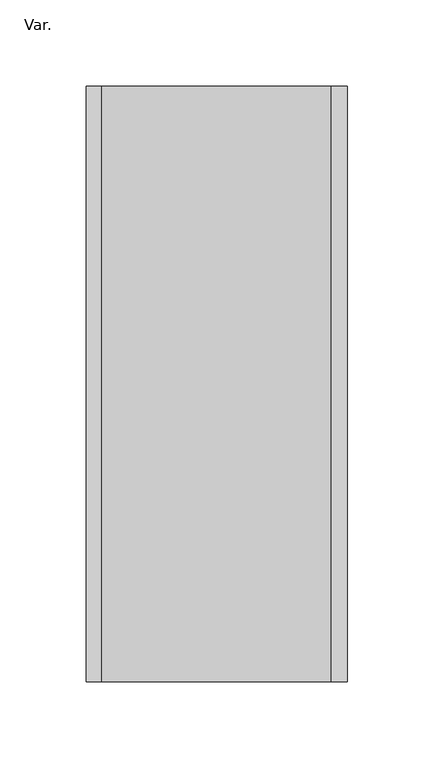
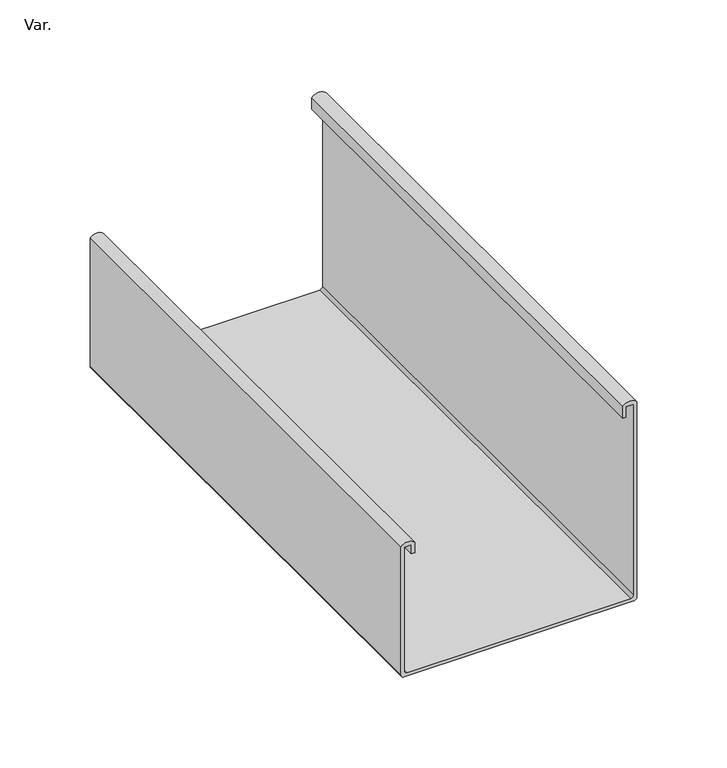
"""IFC4 building model written with IfcOpenShell, lengths in millimetres: pipe fitting geometry, AmancoWavin_Unionesdetubería_CanalesyBajantesZ_NoUsarCanoaAltoCaudal : Var.."""

import ifcopenshell
import ifcopenshell.guid

model = None  # the IFC model being written
_history = None  # IfcOwnerHistory: only IFC2X3 demands one
_inside = {}  # id of a spatial element -> (the spatial element, [elements in it])
_under = {}  # id of a project, library or spatial element -> (it, [spatial elements below it])
_declared = {}  # id of a project -> (the project, [libraries it declares])
_typed = {}  # id of a type object -> (the type object, [elements of that type])
_made_of = {}  # id of a material, layer set ... -> (it, [elements and type objects made of it])


def new_model(schema):
    """Start an empty IFC model of exactly this schema.

    Asked for "IFC4X3", IfcOpenShell would pick the latest addendum, in which some entities
    have other attributes; the version numbers below select the first issue.
    IFC2X3 requires an IfcOwnerHistory on every rooted entity: one is made here for all.
    """
    global model, _history
    if schema == "IFC4X3":
        model = ifcopenshell.file(schema_version=(4, 3, 0, 0))
    else:
        model = ifcopenshell.file(schema=schema)
    _inside.clear()
    _under.clear()
    _declared.clear()
    _typed.clear()
    _made_of.clear()
    _history = None
    if model.schema == "IFC2X3":
        org = make("IfcOrganization", Name="unknown")
        user = make(
            "IfcPersonAndOrganization",
            ThePerson=make("IfcPerson", FamilyName="unknown"),
            TheOrganization=org,
        )
        app = make(
            "IfcApplication",
            ApplicationDeveloper=org,
            Version="unknown",
            ApplicationFullName="unknown",
            ApplicationIdentifier="unknown",
        )
        _history = make(
            "IfcOwnerHistory",
            OwningUser=user,
            OwningApplication=app,
            ChangeAction="ADDED",
            CreationDate=0,
        )
    return model


def make(cls, **values):
    """One entity of the class cls with the attributes given. An attribute that is None is left unset."""
    return model.create_entity(
        cls, **{name: value for name, value in values.items() if value is not None}
    )


def rooted(cls, **values):
    """An entity with a GlobalId (a new one), such as an element, a storey or a relation."""
    return make(cls, GlobalId=ifcopenshell.guid.new(), OwnerHistory=_history, **values)


def si_unit(unit_type, name, prefix=None):
    """IfcSIUnit, for example si_unit("LENGTHUNIT", "METRE", prefix="MILLI")."""
    return make("IfcSIUnit", UnitType=unit_type, Prefix=prefix, Name=name)


def assignment(units):
    """IfcUnitAssignment: the units of a project."""
    return None if units is None else make("IfcUnitAssignment", Units=units)


def point(xyz):
    """IfcCartesianPoint."""
    return None if xyz is None else make("IfcCartesianPoint", Coordinates=xyz)


def direction(xyz):
    """IfcDirection."""
    return None if xyz is None else make("IfcDirection", DirectionRatios=xyz)


def frame(location, z_axis=None, x_axis=None):
    """IfcAxis2Placement3D, a coordinate frame: its origin and axes. An axis left out is left unset."""
    return make(
        "IfcAxis2Placement3D",
        Location=point(location),
        Axis=direction(z_axis),
        RefDirection=direction(x_axis),
    )


def frame_2d(location, x_axis=None):
    """IfcAxis2Placement2D, a coordinate frame in the plane: its origin and x axis."""
    return make(
        "IfcAxis2Placement2D", Location=point(location), RefDirection=direction(x_axis)
    )


def origin():
    """The frame at (0, 0, 0) with its axes left unset."""
    return frame((0.0, 0.0, 0.0))


def place(relative_to, where):
    """IfcLocalPlacement: puts the frame where relative to a parent placement (None: the world)."""
    return make(
        "IfcLocalPlacement", PlacementRelTo=relative_to, RelativePlacement=where
    )


def context(
    kind, dimensions, precision=None, world=None, true_north=None, identifier=None
):
    """IfcGeometricRepresentationContext, for example the 3D "Model" context."""
    return make(
        "IfcGeometricRepresentationContext",
        ContextIdentifier=identifier,
        ContextType=kind,
        CoordinateSpaceDimension=dimensions,
        Precision=precision,
        WorldCoordinateSystem=world,
        TrueNorth=true_north,
    )


def project(units=None, contexts=None):
    """IfcProject with its units and contexts."""
    return rooted(
        "IfcProject",
        Name="project",
        RepresentationContexts=contexts,
        UnitsInContext=assignment(units),
    )


def spatial(cls, under=None, at=None, **own):
    """A site, building, storey or space (cls), placed at a placement, below another one or the project."""
    s = rooted(cls, ObjectPlacement=at, **own)
    if under is not None:
        _under.setdefault(under.id(), (under, []))[1].append(s)
    return s


def polyline(points):
    """IfcPolyline through the points."""
    return make("IfcPolyline", Points=[point(p) for p in points])


def circle_curve(where, radius):
    """IfcCircle in the frame where."""
    return make("IfcCircle", Position=where, Radius=radius)


def trimmed(basis, trim1, trim2, sense, master):
    """IfcTrimmedCurve: the piece of a basis curve between two trims."""
    return make(
        "IfcTrimmedCurve",
        BasisCurve=basis,
        Trim1=trim1,
        Trim2=trim2,
        SenseAgreement=sense,
        MasterRepresentation=master,
    )


def segment(curve, same_sense, transition):
    """IfcCompositeCurveSegment."""
    return make(
        "IfcCompositeCurveSegment",
        Transition=transition,
        SameSense=same_sense,
        ParentCurve=curve,
    )


def composite_curve(segments, self_intersect=None):
    """IfcCompositeCurve: segments joined end to end."""
    return make("IfcCompositeCurve", Segments=segments, SelfIntersect=self_intersect)


def outline(outer, holes=None, kind="AREA"):
    """IfcArbitraryClosedProfileDef: a profile drawn as a closed curve; with holes, ...WithVoids."""
    if holes is None:
        return make("IfcArbitraryClosedProfileDef", ProfileType=kind, OuterCurve=outer)
    return make(
        "IfcArbitraryProfileDefWithVoids",
        ProfileType=kind,
        OuterCurve=outer,
        InnerCurves=holes,
    )


def extrude(swept, where, along, depth):
    """IfcExtrudedAreaSolid: the profile swept, set in the frame where, extruded along a direction by depth."""
    return make(
        "IfcExtrudedAreaSolid",
        SweptArea=swept,
        Position=where,
        ExtrudedDirection=direction(along),
        Depth=depth,
    )


def shape(context_of_items, identifier, shape_type, items):
    """IfcShapeRepresentation: the items that make up one representation, for example the "Body"."""
    return make(
        "IfcShapeRepresentation",
        ContextOfItems=context_of_items,
        RepresentationIdentifier=identifier,
        RepresentationType=shape_type,
        Items=items,
    )


def source(mapping_origin, context_of_items, identifier, shape_type, items):
    """IfcRepresentationMap: a shape defined once, which mapped items show again and again."""
    return make(
        "IfcRepresentationMap",
        MappingOrigin=mapping_origin,
        MappedRepresentation=shape(context_of_items, identifier, shape_type, items),
    )


def transform(
    local_origin,
    x_axis=None,
    y_axis=None,
    z_axis=None,
    scale=None,
    scale2=None,
    scale3=None,
    uniform=True,
):
    """IfcCartesianTransformationOperator3D, or its non-uniform kind. x_axis, y_axis, z_axis: its Axis1, 2, 3."""
    if uniform:
        return make(
            "IfcCartesianTransformationOperator3D",
            Axis1=direction(x_axis),
            Axis2=direction(y_axis),
            LocalOrigin=point(local_origin),
            Scale=scale,
            Axis3=direction(z_axis),
        )
    return make(
        "IfcCartesianTransformationOperator3DnonUniform",
        Axis1=direction(x_axis),
        Axis2=direction(y_axis),
        LocalOrigin=point(local_origin),
        Scale=scale,
        Axis3=direction(z_axis),
        Scale2=scale2,
        Scale3=scale3,
    )


def mapped(mapping_source, mapping_target):
    """IfcMappedItem: shows the shape of a source again, moved by a transform."""
    return make(
        "IfcMappedItem", MappingSource=mapping_source, MappingTarget=mapping_target
    )


def made_of(thing, what):
    """Note that an element or type object is made of a material, layer set ...; save() writes the relation."""
    if what is not None:
        _made_of.setdefault(what.id(), (what, []))[1].append(thing)
    return thing


def element(
    cls,
    number,
    at=None,
    inside=None,
    cuts=None,
    type_object=None,
    material=None,
    context=None,
    identifier="Body",
    shape_type=None,
    held_by="IfcProductDefinitionShape",
    body=None,
    shapes=None,
    **own,
):
    """One element of the class cls, such as IfcWall. Its Tag is "e" and its number.

    at: its placement. inside: the storey or other place that contains it. cuts: it is an
    opening in that element (IfcRelVoidsElement). A single representation is given by context,
    identifier, shape_type and body (its items); several are given by shapes. held_by: the class
    of the entity that holds the representations. save() writes the other relations.
    """
    e = rooted(cls, Tag="e%d" % number, ObjectPlacement=at, **own)
    if body is not None:
        shapes = [shape(context, identifier, shape_type, body)]
    if shapes is not None:
        e.Representation = make(held_by, Representations=shapes)
    if inside is not None:
        _inside.setdefault(inside.id(), (inside, []))[1].append(e)
    if cuts is not None:
        rooted(
            "IfcRelVoidsElement", RelatingBuildingElement=cuts, RelatedOpeningElement=e
        )
    if type_object is not None:
        _typed.setdefault(type_object.id(), (type_object, []))[1].append(e)
    return made_of(e, material)


def aggregate(whole, parts):
    """IfcRelAggregates: a whole, such as a stair, and the parts it consists of."""
    return rooted("IfcRelAggregates", RelatingObject=whole, RelatedObjects=parts)


def save(model, path):
    """Write the relations noted so far, then the file.

    IfcRelAggregates (storeys below a building ...), IfcRelContainedInSpatialStructure (elements
    in a storey), IfcRelDefinesByType, IfcRelAssociatesMaterial and IfcRelDeclares: one each for
    every whole, place, type object, material and project.
    """
    for whole, parts in _under.values():
        aggregate(whole, parts)
    for where, things in _inside.values():
        rooted(
            "IfcRelContainedInSpatialStructure",
            RelatedElements=things,
            RelatingStructure=where,
        )
    for kind, things in _typed.values():
        rooted("IfcRelDefinesByType", RelatedObjects=things, RelatingType=kind)
    for what, things in _made_of.values():
        rooted("IfcRelAssociatesMaterial", RelatedObjects=things, RelatingMaterial=what)
    for by, libraries in _declared.values():
        rooted("IfcRelDeclares", RelatingContext=by, RelatedDefinitions=libraries)
    model.write(path)


def var_36aa1468(model_context):
    return source(origin(), model_context, "Body", "SweptSolid", [
        extrude(outline(composite_curve([segment(polyline([(4.04, -73.58), (87.7357853, -73.58), (87.7357853, -68.9), (81.7, -68.9), (81.7, -66.88), (88.7531357, -66.88)]), True, "CONTINUOUS"), segment(trimmed(circle_curve(frame_2d((84.9336297, -71.2)), 5.7663703), [point((88.7531357, -66.88))], [point((88.6606964, -75.6))], False, "CARTESIAN"), True, "CONTINUOUS"), segment(polyline([(88.6606964, -75.6), (2.02, -75.6)]), True, "CONTINUOUS"), segment(trimmed(circle_curve(frame_2d((2.02, -73.58)), 2.02), [point((2.02, -75.6))], [point((0.0, -73.58))], False, "CARTESIAN"), True, "CONTINUOUS"), segment(polyline([(0.0, -73.58), (0.0, 73.58)]), True, "CONTINUOUS"), segment(trimmed(circle_curve(frame_2d((2.02, 73.58)), 2.02), [point((0.0, 73.58))], [point((2.02, 75.6))], False, "CARTESIAN"), True, "CONTINUOUS"), segment(polyline([(2.02, 75.6), (134.2358419, 75.6)]), True, "CONTINUOUS"), segment(trimmed(circle_curve(frame_2d((129.5202264, 71.04)), 6.5597736), [point((134.2358419, 75.6))], [point((134.2358419, 66.48))], False, "CARTESIAN"), True, "CONTINUOUS"), segment(polyline([(134.2358419, 66.48), (126.23, 66.48), (126.23, 68.5), (133.0801189, 68.5), (133.0801189, 73.58), (4.04, 73.58)]), True, "CONTINUOUS"), segment(trimmed(circle_curve(frame_2d((4.04, 71.56)), 2.02), [point((4.04, 73.58))], [point((2.02, 71.56))], True, "CARTESIAN"), True, "CONTINUOUS"), segment(polyline([(2.02, 71.56), (2.02, -71.56)]), True, "CONTINUOUS"), segment(trimmed(circle_curve(frame_2d((4.04, -71.56)), 2.02), [point((2.02, -71.56))], [point((4.04, -73.58))], True, "CARTESIAN"), True, "CONTINUOUS")], self_intersect=False)), frame((0.0, 0.0, 0.0), z_axis=(0.0, 1.0, 0.0), x_axis=(0.0, 0.0, 1.0)), (0.0, 0.0, 1.0), 345.0),
    ])


if __name__ == "__main__":
    model = new_model("IFC4")
    model_context = context("Model", 3, world=origin())
    ifc_project = project(units=[si_unit("LENGTHUNIT", "METRE", prefix="MILLI")], contexts=[model_context])
    site = spatial("IfcSite", under=ifc_project)
    building = spatial("IfcBuilding", under=site)
    placement = place(None, origin())
    var_shape = var_36aa1468(model_context)
    element("IfcPipeFitting", 1, ObjectType="AmancoWavin_Unionesdetubería_CanalesyBajantesZ_NoUsarCanoaAltoCaudal : Var.", at=placement, inside=building, context=model_context, shape_type="MappedRepresentation", body=[
        mapped(var_shape, transform((0.0, 0.0, 0.0), x_axis=(1.0, 0.0, 0.0), y_axis=(0.0, 1.0, 0.0), z_axis=(0.0, 0.0, 1.0))),
    ])
    save(model, "model.ifc")
